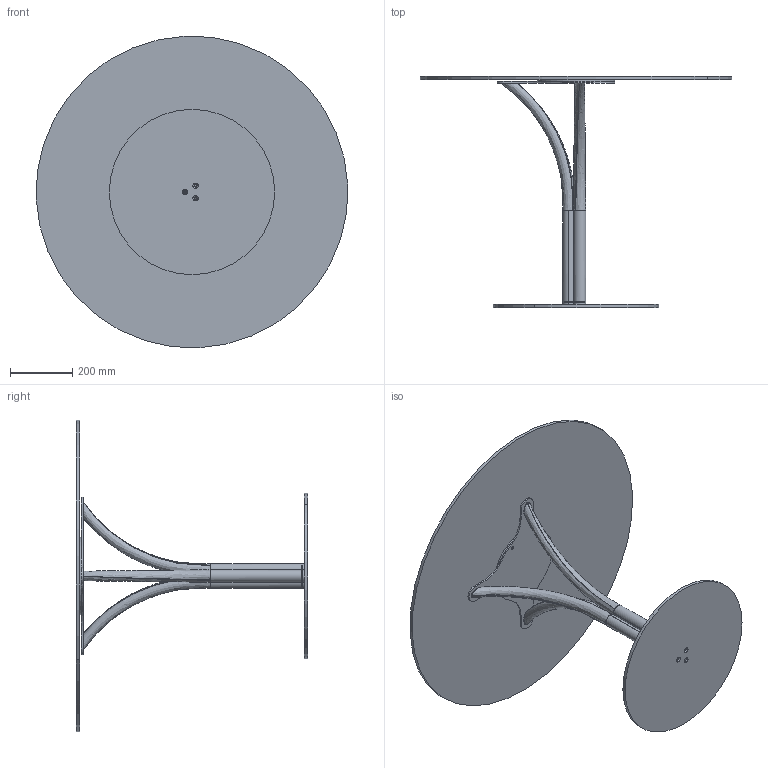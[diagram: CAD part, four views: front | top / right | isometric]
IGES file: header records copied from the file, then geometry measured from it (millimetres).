
Start section: SolidWorks IGES file using analytic representation for surfaces
Global section: file name: Y:\eforma\TECNICO\SOLIDWORKS\E-FORMA\5-TAVOLINI BISTRO\DODÒ\02 parts\DB30G.IGS; native system: SolidWorks 2022; preprocessor: SolidWorks 2022; author: eforma.tech; date: 240808.101549; units: millimetre
Bounding box: 999.01 x 741 x 999.01 mm (x, y, z)
Volume: 11242982.5 mm3; surface area: 2840433.7 mm2
Topology: 10 solids, 10 shells, 107 faces, 255 edges, 168 vertices
Faces by surface type: revolution 69, plane 26, bspline 12
